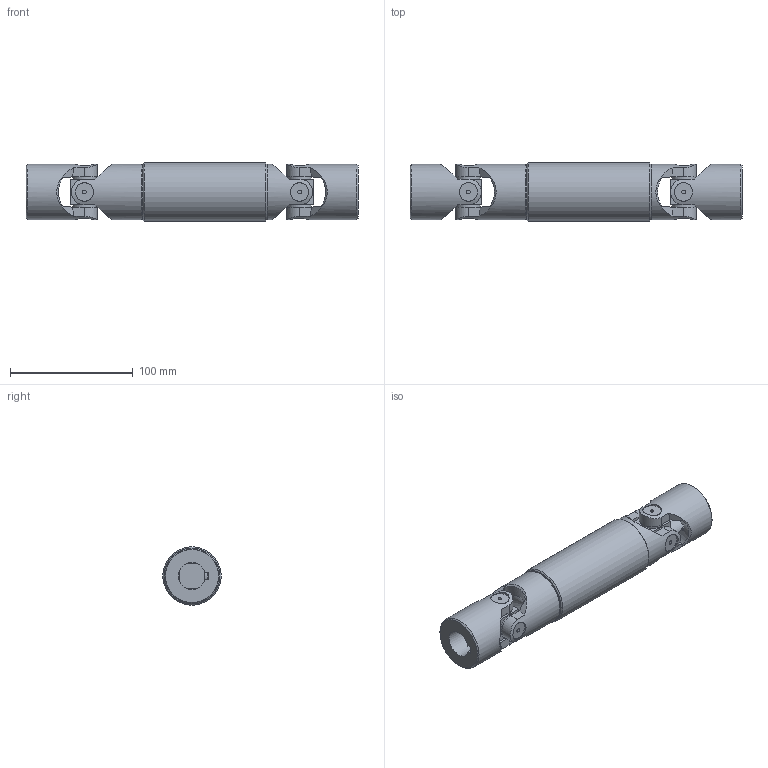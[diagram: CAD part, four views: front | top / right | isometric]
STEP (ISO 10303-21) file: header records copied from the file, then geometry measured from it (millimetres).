
FILE_DESCRIPTION(/* description */ (''),/* implementation_level */ '2;1');
FILE_NAME(/* name */ '\\SRV2016\Societa\Stefano\Disegni 3D\00Catalogo 3D\03Trasmissioni standard GA\4GA10\4GA10_SG0A2210.stp',/* time_stamp */ '2022-02-28T10:16:46+01:00',/* author */ ('acquisti'),/* organization */ (''),/* preprocessor_version */ 'ST-DEVELOPER v15.6',/* originating_system */ 'Autodesk Inventor 2015',/* authorisation */ '');
FILE_SCHEMA (('AUTOMOTIVE_DESIGN { 1 0 10303 214 3 1 1 }'));
Length unit declared in the file: millimetre
Products named in the file (5): 4G MOC; 4GA SFE; 4GA10 LCI; 4GA10 LAI; 4GA10_SG0A2210
Assembly tree (6 placements, depth 2):
  4GA10_SG0A2210
    4G MOC  x2
    4GA SFE  x2
    4GA10 LCI
    4GA10 LAI
Bounding box: 270 x 47.5 x 47.5 mm (x, y, z)
Volume: 330175.2 mm3; surface area: 82597.4 mm2
Topology: 6 solids, 6 shells, 204 faces, 513 edges, 345 vertices
Faces by surface type: plane 106, cylinder 69, cone 25, torus 4
Full cylindrical faces by diameter (mm): 3 x8, 15 x8, 19 x8, 22 x1, 23 x2, 39 x1, 45 x4, 47.5 x1
Entity records: 5283 total; most frequent: CARTESIAN_POINT 1527, DIRECTION 751, ORIENTED_EDGE 736, EDGE_CURVE 368, AXIS2_PLACEMENT_3D 299, VERTEX_POINT 268, EDGE_LOOP 212, FACE_OUTER_BOUND 158
